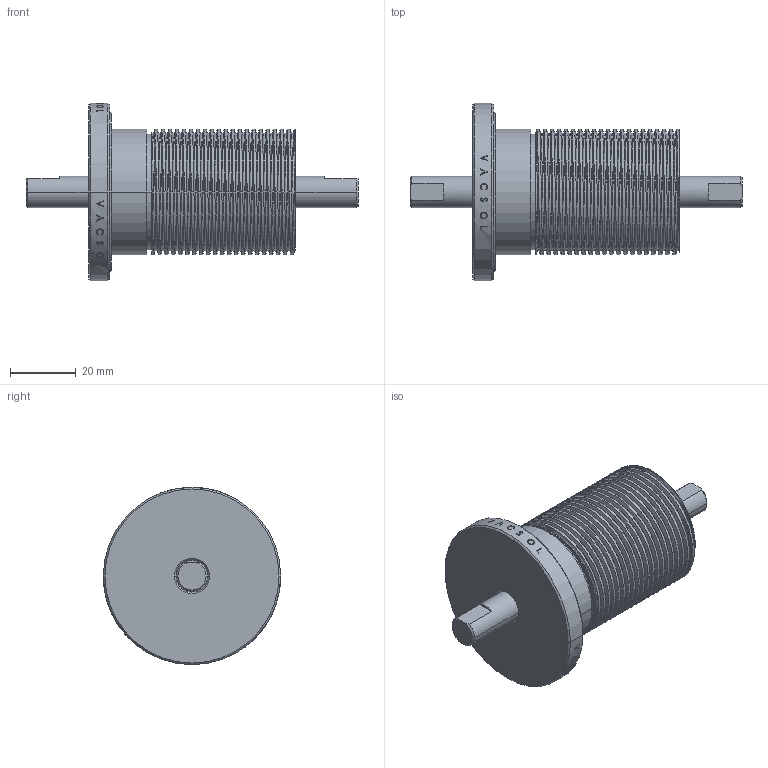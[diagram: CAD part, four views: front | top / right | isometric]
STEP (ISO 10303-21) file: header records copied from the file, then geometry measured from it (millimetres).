
FILE_DESCRIPTION (( 'STEP AP203' ), '1' );
FILE_NAME ('P62080.STEP', '2010-10-11T11:04:30', ( 'user' ), ( '' ), 'SwSTEP 2.0', 'SolidWorks 2007', '' );
FILE_SCHEMA (( 'CONFIG_CONTROL_DESIGN' ));
Length unit declared in the file: millimetre
Products named in the file (1): P62080
Bounding box: 100.84 x 53.85 x 53.85 mm (x, y, z)
Volume: 78278.2 mm3; surface area: 19816.5 mm2
Topology: 2 solids, 2 shells, 344 faces, 911 edges, 602 vertices
Faces by surface type: bspline 179, cylinder 128, plane 19, cone 14, torus 4
Entity records: 23619 total; most frequent: CARTESIAN_POINT 17050, ORIENTED_EDGE 1822, EDGE_CURVE 911, DIRECTION 605, VERTEX_POINT 602, B_SPLINE_CURVE_WITH_KNOTS 542, EDGE_LOOP 377, FACE_OUTER_BOUND 344
